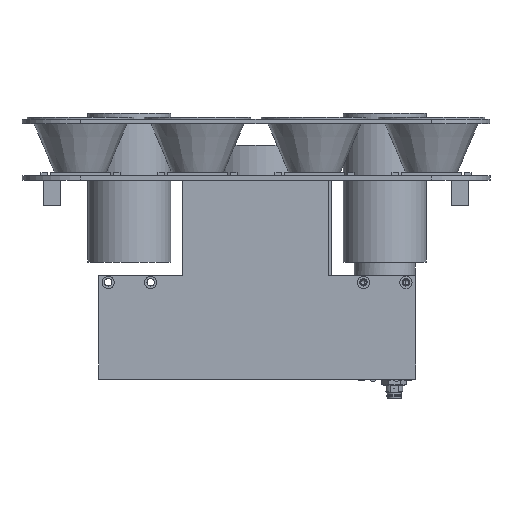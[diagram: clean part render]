
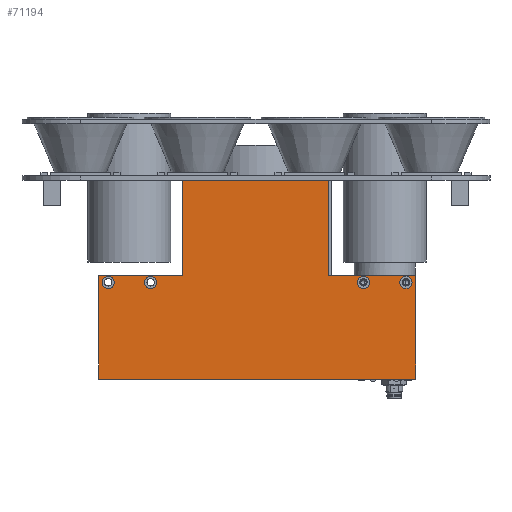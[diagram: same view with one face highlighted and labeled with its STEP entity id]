
A CAD part, front view. The second image highlights one B-rep face of the part: STEP entity #71194.
In plain terms, the highlighted planar face has unit normal (0, -1, 0) as drawn and (0, 0, -1) by its records, which use the part's own axes.
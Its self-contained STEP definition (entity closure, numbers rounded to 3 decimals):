
#70640=CARTESIAN_POINT('',(1.625,48.05,0.0));
#70641=VERTEX_POINT('',#70640);
#70642=CARTESIAN_POINT('',(4.5,48.05,0.0));
#70643=DIRECTION('',(0.0,0.0,1.0));
#70644=DIRECTION('',(-1.0,0.0,0.0));
#70645=AXIS2_PLACEMENT_3D('',#70642,#70643,#70644);
#70646=CIRCLE('',#70645,2.875);
#70647=EDGE_CURVE('',#70641,#70641,#70646,.T.);
#70708=CARTESIAN_POINT('',(21.625,48.05,0.0));
#70709=VERTEX_POINT('',#70708);
#70710=CARTESIAN_POINT('',(24.5,48.05,0.0));
#70711=DIRECTION('',(0.0,0.0,1.0));
#70712=DIRECTION('',(-1.0,0.0,0.0));
#70713=AXIS2_PLACEMENT_3D('',#70710,#70711,#70712);
#70714=CIRCLE('',#70713,2.875);
#70715=EDGE_CURVE('',#70709,#70709,#70714,.T.);
#70776=CARTESIAN_POINT('',(121.625,48.05,0.0));
#70777=VERTEX_POINT('',#70776);
#70778=CARTESIAN_POINT('',(124.5,48.05,0.0));
#70779=DIRECTION('',(0.0,0.0,1.0));
#70780=DIRECTION('',(-1.0,0.0,0.0));
#70781=AXIS2_PLACEMENT_3D('',#70778,#70779,#70780);
#70782=CIRCLE('',#70781,2.875);
#70783=EDGE_CURVE('',#70777,#70777,#70782,.T.);
#70844=CARTESIAN_POINT('',(141.625,48.05,0.0));
#70845=VERTEX_POINT('',#70844);
#70846=CARTESIAN_POINT('',(144.5,48.05,0.0));
#70847=DIRECTION('',(0.0,0.0,1.0));
#70848=DIRECTION('',(-1.0,0.0,0.0));
#70849=AXIS2_PLACEMENT_3D('',#70846,#70847,#70848);
#70850=CIRCLE('',#70849,2.875);
#70851=EDGE_CURVE('',#70845,#70845,#70850,.T.);
#70931=CARTESIAN_POINT('',(108.,45.05,0.0));
#70932=VERTEX_POINT('',#70931);
#70939=CARTESIAN_POINT('',(149.,45.05,0.0));
#70940=VERTEX_POINT('',#70939);
#70941=CARTESIAN_POINT('',(149.0,45.05,0.0));
#70942=DIRECTION('',(-1.0,0.0,0.0));
#70943=VECTOR('',#70942,41.);
#70944=LINE('',#70941,#70943);
#70945=EDGE_CURVE('',#70940,#70932,#70944,.T.);
#70985=CARTESIAN_POINT('',(108.,0.,0.0));
#70986=VERTEX_POINT('',#70985);
#70993=CARTESIAN_POINT('',(108.,45.05,0.0));
#70994=DIRECTION('',(0.0,-1.0,0.0));
#70995=VECTOR('',#70994,45.05);
#70996=LINE('',#70993,#70995);
#70997=EDGE_CURVE('',#70932,#70986,#70996,.T.);
#71018=CARTESIAN_POINT('',(39.5,45.05,0.0));
#71019=VERTEX_POINT('',#71018);
#71026=CARTESIAN_POINT('',(39.5,0.,0.0));
#71027=VERTEX_POINT('',#71026);
#71028=CARTESIAN_POINT('',(39.5,0.,0.0));
#71029=DIRECTION('',(0.0,1.0,0.0));
#71030=VECTOR('',#71029,45.05);
#71031=LINE('',#71028,#71030);
#71032=EDGE_CURVE('',#71027,#71019,#71031,.T.);
#71058=CARTESIAN_POINT('',(0.,45.05,0.0));
#71059=VERTEX_POINT('',#71058);
#71066=CARTESIAN_POINT('',(39.5,45.05,0.0));
#71067=DIRECTION('',(-1.0,0.0,0.0));
#71068=VECTOR('',#71067,39.5);
#71069=LINE('',#71066,#71068);
#71070=EDGE_CURVE('',#71019,#71059,#71069,.T.);
#71143=CARTESIAN_POINT('',(74.5,46.75,0.0));
#71144=DIRECTION('',(0.0,0.0,1.0));
#71145=DIRECTION('',(1.0,0.0,0.0));
#71146=AXIS2_PLACEMENT_3D('',#71143,#71144,#71145);
#71147=PLANE('',#71146);
#71148=ORIENTED_EDGE('',*,*,#70945,.T.);
#71149=ORIENTED_EDGE('',*,*,#70997,.T.);
#71150=CARTESIAN_POINT('',(39.5,0.,0.0));
#71151=DIRECTION('',(1.0,0.0,0.0));
#71152=VECTOR('',#71151,68.5);
#71153=LINE('',#71150,#71152);
#71154=EDGE_CURVE('',#71027,#70986,#71153,.T.);
#71155=ORIENTED_EDGE('',*,*,#71154,.F.);
#71156=ORIENTED_EDGE('',*,*,#71032,.T.);
#71157=ORIENTED_EDGE('',*,*,#71070,.T.);
#71158=CARTESIAN_POINT('',(0.,93.5,0.0));
#71159=VERTEX_POINT('',#71158);
#71160=CARTESIAN_POINT('',(0.,93.5,0.0));
#71161=DIRECTION('',(0.0,-1.0,0.0));
#71162=VECTOR('',#71161,48.45);
#71163=LINE('',#71160,#71162);
#71164=EDGE_CURVE('',#71159,#71059,#71163,.T.);
#71165=ORIENTED_EDGE('',*,*,#71164,.F.);
#71166=CARTESIAN_POINT('',(149.,93.5,0.0));
#71167=VERTEX_POINT('',#71166);
#71168=CARTESIAN_POINT('',(149.,93.5,0.0));
#71169=DIRECTION('',(-1.0,0.0,0.0));
#71170=VECTOR('',#71169,149.0);
#71171=LINE('',#71168,#71170);
#71172=EDGE_CURVE('',#71167,#71159,#71171,.T.);
#71173=ORIENTED_EDGE('',*,*,#71172,.F.);
#71174=CARTESIAN_POINT('',(149.,45.05,0.0));
#71175=DIRECTION('',(0.0,1.0,0.0));
#71176=VECTOR('',#71175,48.45);
#71177=LINE('',#71174,#71176);
#71178=EDGE_CURVE('',#70940,#71167,#71177,.T.);
#71179=ORIENTED_EDGE('',*,*,#71178,.F.);
#71180=EDGE_LOOP('',(#71148,#71149,#71155,#71156,#71157,#71165,#71173,#71179));
#71181=FACE_OUTER_BOUND('',#71180,.T.);
#71182=ORIENTED_EDGE('',*,*,#70647,.T.);
#71183=EDGE_LOOP('',(#71182));
#71184=FACE_BOUND('',#71183,.T.);
#71185=ORIENTED_EDGE('',*,*,#70715,.T.);
#71186=EDGE_LOOP('',(#71185));
#71187=FACE_BOUND('',#71186,.T.);
#71188=ORIENTED_EDGE('',*,*,#70783,.T.);
#71189=EDGE_LOOP('',(#71188));
#71190=FACE_BOUND('',#71189,.T.);
#71191=ORIENTED_EDGE('',*,*,#70851,.T.);
#71192=EDGE_LOOP('',(#71191));
#71193=FACE_BOUND('',#71192,.T.);
#71194=ADVANCED_FACE('',(#71181,#71184,#71187,#71190,#71193),#71147,.F.);
